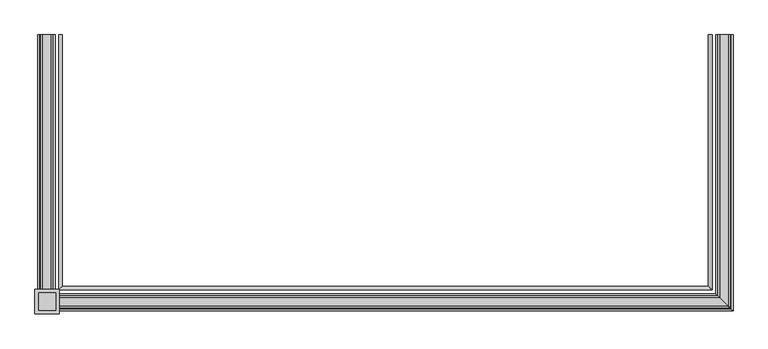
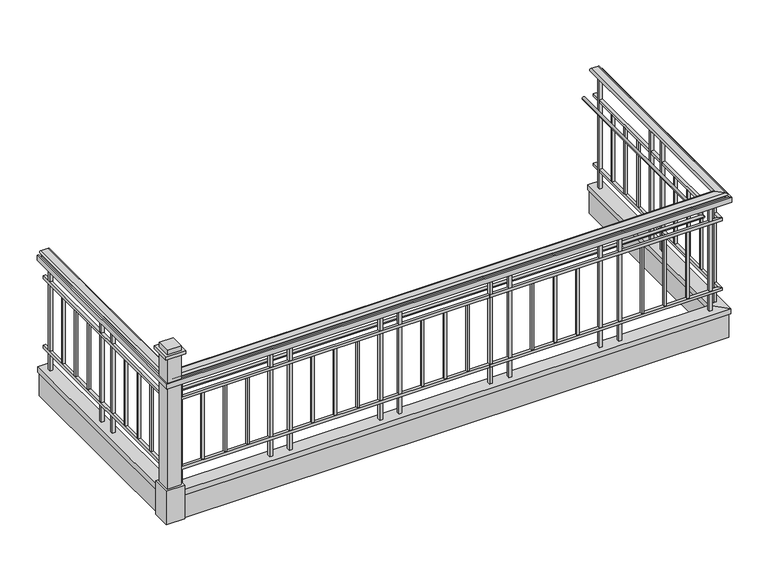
"""IFC4 building model written with IfcOpenShell, lengths in millimetres: railing geometry, Deco Type."""

from ifc_helpers import new_model, si_unit, frame, origin, place, context, project, spatial, polyline, circle_curve, ellipse_curve, outline, extrude, faceted_brep, source, transform, mapped, element, save
from ifc_brep_helpers import plane_surface, cylinder_surface, advanced_brep


def railing_6c571f58(model_context):
    return source(origin(), model_context, "Body", "SolidModel", [
        advanced_brep(
        [(10061.4002076, -7864.1661799, 4146.55), (10124.7499602, -7864.1661799, 4146.55), (10124.7499602, -7864.1661799, 4124.261629), (10124.7499602, -7864.1661799, 4114.8), (10061.4002076, -7864.1661799, 4114.8), (10061.4002076, -7864.1661799, 4124.3248415), (10061.4002076, -9707.4039273, 4124.3248415), (10061.4002076, -9707.4039273, 4146.55), (10061.4002076, -9707.4039273, 4114.8), (10124.7499602, -9770.7536799, 4114.8), (10124.7499602, -9770.7536799, 4124.261629), (10124.7499602, -9770.7536799, 4146.55), (5376.3872128, -9707.4039273, 4124.3248415), (5376.3872128, -9707.4039273, 4146.55), (5376.3872128, -9707.4039273, 4114.8), (5313.0374602, -9770.7536799, 4114.8), (5313.0374602, -9770.7536799, 4124.261629), (5313.0374602, -9770.7536799, 4146.55), (5376.3872128, -7864.1661799, 4146.55), (5376.3872128, -7864.1661799, 4124.3248415), (5376.3872128, -7864.1661799, 4114.8), (5313.0374602, -7864.1661799, 4114.8), (5313.0374602, -7864.1661799, 4124.261629), (5313.0374602, -7864.1661799, 4146.55)],
        [
            (0, 1),
            (1, 2, circle_curve(frame((10124.7499602, -7864.1661799, 4135.4058145), z_axis=(0.0, 1.0, 0.0), x_axis=(1.0, 0.0, 0.0)), 11.1441855)),
            (2, 3),
            (3, 4),
            (4, 5),
            (5, 0, circle_curve(frame((10061.4002076, -7864.1661799, 4135.4374207), z_axis=(0.0, 1.0, 0.0), x_axis=(1.0, 0.0, 0.0)), 11.1125793)),
            (5, 6),
            (6, 7, ellipse_curve(frame((10061.4002076, -9707.4039273, 4135.4374207), z_axis=(0.7071067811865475, 0.7071067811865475, 0.0), x_axis=(-0.7071067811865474, 0.7071067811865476, 0.0)), 15.7155603, 11.1125793)),
            (7, 0),
            (4, 8),
            (8, 6),
            (3, 9),
            (9, 8),
            (2, 10),
            (10, 9),
            (1, 11),
            (11, 10, ellipse_curve(frame((10124.7499602, -9770.7536799, 4135.4058145), z_axis=(0.7071067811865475, 0.7071067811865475, 0.0), x_axis=(-0.7071067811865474, 0.7071067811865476, 0.0)), 15.7602583, 11.1441855)),
            (7, 11),
            (6, 12),
            (12, 13, ellipse_curve(frame((5376.3872128, -9707.4039273, 4135.4374207), z_axis=(0.7071067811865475, -0.7071067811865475, 0.0), x_axis=(0.7071067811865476, 0.7071067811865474, 0.0)), 15.7155603, 11.1125793)),
            (13, 7),
            (8, 14),
            (14, 12),
            (9, 15),
            (15, 14),
            (10, 16),
            (16, 15),
            (11, 17),
            (17, 16, ellipse_curve(frame((5313.0374602, -9770.7536799, 4135.4058145), z_axis=(0.7071067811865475, -0.7071067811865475, 0.0), x_axis=(0.7071067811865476, 0.7071067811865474, 0.0)), 15.7602583, 11.1441855)),
            (13, 17),
            (18, 19, circle_curve(frame((5376.3872128, -7864.1661799, 4135.4374207), z_axis=(0.0, 1.0, 0.0), x_axis=(-1.0, 0.0, 0.0)), 11.1125793)),
            (19, 20),
            (20, 21),
            (21, 22),
            (22, 23, circle_curve(frame((5313.0374602, -7864.1661799, 4135.4058145), z_axis=(0.0, 1.0, 0.0), x_axis=(-1.0, 0.0, 0.0)), 11.1441855)),
            (23, 18),
            (12, 19),
            (18, 13),
            (14, 20),
            (15, 21),
            (16, 22),
            (17, 23),
        ],
        [
            plane_surface(frame((10092.9999602, -7864.1661799, 4114.8), z_axis=(0.0, 1.0, 0.0), x_axis=(0.0, 0.0, -1.0))),
            cylinder_surface(frame((10061.4002076, -7864.1661799, 4135.4374207), z_axis=(0.0, 1.0, 0.0), x_axis=(1.0, 0.0, 0.0)), 11.1125793),
            plane_surface(frame((10061.4002076, -7864.1661799, 4114.8), z_axis=(-1.0, 0.0, 0.0), x_axis=(0.0, -1.0, 0.0))),
            plane_surface(frame((10124.7499602, -7864.1661799, 4114.8), z_axis=(0.0, 0.0, -1.0), x_axis=(0.0, -1.0, 0.0))),
            plane_surface(frame((10124.7499602, -7864.1661799, 4124.261629), z_axis=(1.0, 0.0, 0.0), x_axis=(0.0, -1.0, 0.0))),
            cylinder_surface(frame((10124.7499602, -7864.1661799, 4135.4058145), z_axis=(0.0, 1.0, 0.0), x_axis=(1.0, 0.0, 0.0)), 11.1441855),
            plane_surface(frame((10061.4002076, -7864.1661799, 4146.55), z_axis=(0.0, 0.0, 1.0), x_axis=(0.0, -1.0, 0.0))),
            cylinder_surface(frame((10092.9999602, -9707.4039273, 4135.4374207), z_axis=(1.0, 0.0, 0.0), x_axis=(0.0, -1.0, 0.0)), 11.1125793),
            plane_surface(frame((10061.4002076, -9707.4039273, 4114.8), z_axis=(0.0, 1.0, 0.0), x_axis=(-1.0, 0.0, 0.0))),
            plane_surface(frame((10124.7499602, -9770.7536799, 4114.8), z_axis=(0.0, 0.0, -1.0), x_axis=(-1.0, 0.0, 0.0))),
            plane_surface(frame((10124.7499602, -9770.7536799, 4124.261629), z_axis=(0.0, -1.0, 0.0), x_axis=(-1.0, 0.0, 0.0))),
            cylinder_surface(frame((10092.9999602, -9770.7536799, 4135.4058145), z_axis=(1.0, 0.0, 0.0), x_axis=(0.0, -1.0, 0.0)), 11.1441855),
            plane_surface(frame((10061.4002076, -9707.4039273, 4146.55), z_axis=(0.0, 0.0, 1.0), x_axis=(-1.0, 0.0, 0.0))),
            plane_surface(frame((5344.7874602, -7864.1661799, 4114.8), z_axis=(0.0, 1.0, 0.0), x_axis=(0.0, 0.0, 1.0))),
            cylinder_surface(frame((5376.3872128, -9739.0036799, 4135.4374207), z_axis=(0.0, -1.0, 0.0), x_axis=(-1.0, 0.0, 0.0)), 11.1125793),
            plane_surface(frame((5376.3872128, -9707.4039273, 4114.8), z_axis=(1.0, 0.0, 0.0), x_axis=(0.0, 1.0, 0.0))),
            plane_surface(frame((5313.0374602, -9770.7536799, 4114.8), z_axis=(0.0, 0.0, -1.0), x_axis=(0.0, 1.0, 0.0))),
            plane_surface(frame((5313.0374602, -9770.7536799, 4124.261629), z_axis=(-1.0, 0.0, 0.0), x_axis=(0.0, 1.0, 0.0))),
            cylinder_surface(frame((5313.0374602, -9739.0036799, 4135.4058145), z_axis=(0.0, -1.0, 0.0), x_axis=(-1.0, 0.0, 0.0)), 11.1441855),
            plane_surface(frame((5376.3872128, -9707.4039273, 4146.55), z_axis=(0.0, 0.0, 1.0), x_axis=(0.0, 1.0, 0.0))),
        ],
        [
            (0, [[1, 2, 3, 4, 5, 6]]),
            (1, [[-6, 7, 8, 9]]),
            (2, [[-5, 10, 11, -7]]),
            (3, [[-4, 12, 13, -10]]),
            (4, [[-3, 14, 15, -12]]),
            (5, [[-2, 16, 17, -14]]),
            (6, [[-1, -9, 18, -16]]),
            (7, [[-8, 19, 20, 21]]),
            (8, [[-11, 22, 23, -19]]),
            (9, [[-13, 24, 25, -22]]),
            (10, [[-15, 26, 27, -24]]),
            (11, [[-17, 28, 29, -26]]),
            (12, [[-18, -21, 30, -28]]),
            (13, [[31, 32, 33, 34, 35, 36]]),
            (14, [[-20, 37, -31, 38]]),
            (15, [[-23, 39, -32, -37]]),
            (16, [[-25, 40, -33, -39]]),
            (17, [[-27, 41, -34, -40]]),
            (18, [[-29, 42, -35, -41]]),
            (19, [[-30, -38, -36, -42]]),
        ],
    ),
        faceted_brep([(10118.4750839, -7864.1661799, 4114.8), (10118.4750839, -7864.1661799, 4070.35), (10105.7750839, -7864.1661799, 4070.35), (10105.7750839, -7864.1661799, 4114.8), (10105.7750839, -9751.7788036, 4114.8), (10118.4750839, -9764.4788036, 4114.8), (10105.7750839, -9751.7788036, 4070.35), (10118.4750839, -9764.4788036, 4070.35), (5332.0123365, -9751.7788036, 4114.8), (5319.3123365, -9764.4788036, 4114.8), (5332.0123365, -9751.7788036, 4070.35), (5319.3123365, -9764.4788036, 4070.35), (5319.3123365, -7864.1661799, 4114.8), (5332.0123365, -7864.1661799, 4114.8), (5332.0123365, -7864.1661799, 4070.35), (5319.3123365, -7864.1661799, 4070.35)], [[[0, 1, 2, 3]], [[0, 3, 4, 5]], [[3, 2, 6, 4]], [[2, 1, 7, 6]], [[1, 0, 5, 7]], [[5, 4, 8, 9]], [[4, 6, 10, 8]], [[6, 7, 11, 10]], [[7, 5, 9, 11]], [[12, 13, 14, 15]], [[9, 8, 13, 12]], [[8, 10, 14, 13]], [[10, 11, 15, 14]], [[11, 9, 12, 15]]]),
        faceted_brep([(10156.5750839, -7864.1661799, 4114.8), (10156.5750839, -7864.1661799, 4070.35), (10143.8750839, -7864.1661799, 4070.35), (10143.8750839, -7864.1661799, 4114.8), (10143.8750839, -9789.8788036, 4114.8), (10156.5750839, -9802.5788036, 4114.8), (10143.8750839, -9789.8788036, 4070.35), (10156.5750839, -9802.5788036, 4070.35), (5293.9123365, -9789.8788036, 4114.8), (5281.2123365, -9802.5788036, 4114.8), (5293.9123365, -9789.8788036, 4070.35), (5281.2123365, -9802.5788036, 4070.35), (5281.2123365, -7864.1661799, 4114.8), (5293.9123365, -7864.1661799, 4114.8), (5293.9123365, -7864.1661799, 4070.35), (5281.2123365, -7864.1661799, 4070.35)], [[[0, 1, 2, 3]], [[0, 3, 4, 5]], [[3, 2, 6, 4]], [[2, 1, 7, 6]], [[1, 0, 5, 7]], [[5, 4, 8, 9]], [[4, 6, 10, 8]], [[6, 7, 11, 10]], [[7, 5, 9, 11]], [[12, 13, 14, 15]], [[9, 8, 13, 12]], [[8, 10, 14, 13]], [[10, 11, 15, 14]], [[11, 9, 12, 15]]]),
        faceted_brep([(10105.6999602, -7864.1661799, 3911.6), (10105.6999602, -7864.1661799, 3886.2), (10080.2999602, -7864.1661799, 3886.2), (10080.2999602, -7864.1661799, 3911.6), (10080.2999602, -9726.3036799, 3911.6), (10105.6999602, -9751.7036799, 3911.6), (10080.2999602, -9726.3036799, 3886.2), (10105.6999602, -9751.7036799, 3886.2), (5357.4874602, -9726.3036799, 3911.6), (5332.0874602, -9751.7036799, 3911.6), (5357.4874602, -9726.3036799, 3886.2), (5332.0874602, -9751.7036799, 3886.2), (5332.0874602, -7864.1661799, 3911.6), (5357.4874602, -7864.1661799, 3911.6), (5357.4874602, -7864.1661799, 3886.2), (5332.0874602, -7864.1661799, 3886.2)], [[[0, 1, 2, 3]], [[0, 3, 4, 5]], [[3, 2, 6, 4]], [[2, 1, 7, 6]], [[1, 0, 5, 7]], [[5, 4, 8, 9]], [[4, 6, 10, 8]], [[6, 7, 11, 10]], [[7, 5, 9, 11]], [[12, 13, 14, 15]], [[9, 8, 13, 12]], [[8, 10, 14, 13]], [[10, 11, 15, 14]], [[11, 9, 12, 15]]]),
        advanced_brep(
        [(9983.4624602, -7864.1661799, 3898.9), (10008.8624602, -7864.1661799, 3898.9), (10008.8624602, -9654.8661799, 3898.9), (9983.4624602, -9629.4661799, 3898.9), (5428.9249602, -9654.8661799, 3898.9), (5454.3249602, -9629.4661799, 3898.9), (5454.3249602, -7864.1661799, 3898.9), (5428.9249602, -7864.1661799, 3898.9)],
        [
            (0, 1, circle_curve(frame((9996.1624602, -7864.1661799, 3898.9), z_axis=(0.0, 1.0, 0.0), x_axis=(1.0, 0.0, 0.0)), 12.7)),
            (1, 0, circle_curve(frame((9996.1624602, -7864.1661799, 3898.9), z_axis=(0.0, 1.0, 0.0), x_axis=(1.0, 0.0, 0.0)), 12.7)),
            (1, 2),
            (2, 3, ellipse_curve(frame((9996.1624602, -9642.1661799, 3898.9), z_axis=(0.7071067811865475, 0.7071067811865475, 0.0), x_axis=(-0.7071067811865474, 0.7071067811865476, 0.0)), 17.9605122, 12.7)),
            (3, 0),
            (3, 2, ellipse_curve(frame((9996.1624602, -9642.1661799, 3898.9), z_axis=(0.7071067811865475, 0.7071067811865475, 0.0), x_axis=(-0.7071067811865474, 0.7071067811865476, 0.0)), 17.9605122, 12.7)),
            (2, 4),
            (4, 5, ellipse_curve(frame((5441.6249602, -9642.1661799, 3898.9), z_axis=(0.7071067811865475, -0.7071067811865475, 0.0), x_axis=(0.7071067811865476, 0.7071067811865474, 0.0)), 17.9605122, 12.7)),
            (5, 3),
            (5, 4, ellipse_curve(frame((5441.6249602, -9642.1661799, 3898.9), z_axis=(0.7071067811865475, -0.7071067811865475, 0.0), x_axis=(0.7071067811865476, 0.7071067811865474, 0.0)), 17.9605122, 12.7)),
            (6, 7, circle_curve(frame((5441.6249602, -7864.1661799, 3898.9), z_axis=(0.0, 1.0, 0.0), x_axis=(-1.0, 0.0, 0.0)), 12.7)),
            (7, 6, circle_curve(frame((5441.6249602, -7864.1661799, 3898.9), z_axis=(0.0, 1.0, 0.0), x_axis=(-1.0, 0.0, 0.0)), 12.7)),
            (4, 7),
            (6, 5),
        ],
        [
            plane_surface(frame((9996.1624602, -7864.1661799, 3898.9), z_axis=(0.0, 1.0, 0.0), x_axis=(0.0, 0.0, -1.0))),
            cylinder_surface(frame((9996.1624602, -7864.1661799, 3898.9), z_axis=(0.0, 1.0, 0.0), x_axis=(1.0, 0.0, 0.0)), 12.7),
            cylinder_surface(frame((9996.1624602, -9642.1661799, 3898.9), z_axis=(1.0, 0.0, 0.0), x_axis=(0.0, -1.0, 0.0)), 12.7),
            plane_surface(frame((5441.6249602, -7864.1661799, 3898.9), z_axis=(0.0, 1.0, 0.0), x_axis=(0.0, 0.0, 1.0))),
            cylinder_surface(frame((5441.6249602, -9642.1661799, 3898.9), z_axis=(0.0, -1.0, 0.0), x_axis=(-1.0, 0.0, 0.0)), 12.7),
        ],
        [
            (0, [[1, 2]]),
            (1, [[-2, 3, 4, 5]]),
            (1, [[-1, -5, 6, -3]]),
            (2, [[-4, 7, 8, 9]]),
            (2, [[-6, -9, 10, -7]]),
            (3, [[11, 12]]),
            (4, [[-8, 13, -11, 14]]),
            (4, [[-10, -14, -12, -13]]),
        ],
    ),
        faceted_brep([(10105.6999602, -7864.1661799, 3276.6), (10105.6999602, -7864.1661799, 3251.2), (10080.2999602, -7864.1661799, 3251.2), (10080.2999602, -7864.1661799, 3276.6), (10080.2999602, -9726.3036799, 3276.6), (10105.6999602, -9751.7036799, 3276.6), (10080.2999602, -9726.3036799, 3251.2), (10105.6999602, -9751.7036799, 3251.2), (5357.4874602, -9726.3036799, 3276.6), (5332.0874602, -9751.7036799, 3276.6), (5357.4874602, -9726.3036799, 3251.2), (5332.0874602, -9751.7036799, 3251.2), (5332.0874602, -7864.1661799, 3276.6), (5357.4874602, -7864.1661799, 3276.6), (5357.4874602, -7864.1661799, 3251.2), (5332.0874602, -7864.1661799, 3251.2)], [[[0, 1, 2, 3]], [[0, 3, 4, 5]], [[3, 2, 6, 4]], [[2, 1, 7, 6]], [[1, 0, 5, 7]], [[5, 4, 8, 9]], [[4, 6, 10, 8]], [[6, 7, 11, 10]], [[7, 5, 9, 11]], [[12, 13, 14, 15]], [[9, 8, 13, 12]], [[8, 10, 14, 13]], [[10, 11, 15, 14]], [[11, 9, 12, 15]]]),
        faceted_brep([(10034.3375839, -7864.1661799, 3097.0362864), (10151.8125839, -7864.1661799, 3097.0362864), (10151.8125839, -7864.1661799, 3048.0), (10139.1125839, -7864.1661799, 3048.0), (10139.1125839, -7864.1661799, 3084.3362864), (10047.0375839, -7864.1661799, 3084.3362864), (10047.0375839, -7864.1661799, 3048.0), (10034.3375839, -7864.1661799, 3048.0), (10034.3375839, -9680.3413036, 3048.0), (10034.3375839, -9680.3413036, 3097.0362864), (10047.0375839, -9693.0413036, 3048.0), (10047.0375839, -9693.0413036, 3084.3362864), (10139.1125839, -9785.1163036, 3084.3362864), (10139.1125839, -9785.1163036, 3048.0), (10151.8125839, -9797.8163036, 3048.0), (10151.8125839, -9797.8163036, 3097.0362864), (5403.4498365, -9680.3413036, 3048.0), (5403.4498365, -9680.3413036, 3097.0362864), (5390.7498365, -9693.0413036, 3048.0), (5390.7498365, -9693.0413036, 3084.3362864), (5298.6748365, -9785.1163036, 3084.3362864), (5298.6748365, -9785.1163036, 3048.0), (5285.9748365, -9797.8163036, 3048.0), (5285.9748365, -9797.8163036, 3097.0362864), (5403.4498365, -7864.1661799, 3097.0362864), (5403.4498365, -7864.1661799, 3048.0), (5390.7498365, -7864.1661799, 3048.0), (5390.7498365, -7864.1661799, 3084.3362864), (5298.6748365, -7864.1661799, 3084.3362864), (5298.6748365, -7864.1661799, 3048.0), (5285.9748365, -7864.1661799, 3048.0), (5285.9748365, -7864.1661799, 3097.0362864)], [[[0, 1, 2, 3, 4, 5, 6, 7]], [[0, 7, 8, 9]], [[7, 6, 10, 8]], [[6, 5, 11, 10]], [[5, 4, 12, 11]], [[4, 3, 13, 12]], [[3, 2, 14, 13]], [[2, 1, 15, 14]], [[1, 0, 9, 15]], [[9, 8, 16, 17]], [[8, 10, 18, 16]], [[10, 11, 19, 18]], [[11, 12, 20, 19]], [[12, 13, 21, 20]], [[13, 14, 22, 21]], [[14, 15, 23, 22]], [[15, 9, 17, 23]], [[24, 25, 26, 27, 28, 29, 30, 31]], [[17, 16, 25, 24]], [[16, 18, 26, 25]], [[18, 19, 27, 26]], [[19, 20, 28, 27]], [[20, 21, 29, 28]], [[21, 22, 30, 29]], [[22, 23, 31, 30]], [[23, 17, 24, 31]]]),
        faceted_brep([(10047.0375839, -7864.1661799, 3084.3362864), (10139.1125839, -7864.1661799, 3084.3362864), (10139.1125839, -7864.1661799, 2830.3362864), (10047.0375839, -7864.1661799, 2830.3362864), (10047.0375839, -9693.0413036, 2830.3362864), (10047.0375839, -9693.0413036, 3084.3362864), (10139.1125839, -9785.1163036, 2830.3362864), (10139.1125839, -9785.1163036, 3084.3362864), (5390.7498365, -9693.0413036, 2830.3362864), (5390.7498365, -9693.0413036, 3084.3362864), (5298.6748365, -9785.1163036, 2830.3362864), (5298.6748365, -9785.1163036, 3084.3362864), (5390.7498365, -7864.1661799, 3084.3362864), (5390.7498365, -7864.1661799, 2830.3362864), (5298.6748365, -7864.1661799, 2830.3362864), (5298.6748365, -7864.1661799, 3084.3362864)], [[[0, 1, 2, 3]], [[0, 3, 4, 5]], [[3, 2, 6, 4]], [[2, 1, 7, 6]], [[1, 0, 5, 7]], [[5, 4, 8, 9]], [[4, 6, 10, 8]], [[6, 7, 11, 10]], [[7, 5, 9, 11]], [[12, 13, 14, 15]], [[9, 8, 13, 12]], [[8, 10, 14, 13]], [[10, 11, 15, 14]], [[11, 9, 12, 15]]]),
        extrude(outline(polyline([(5334.8655852, -7959.4570347), (5334.8655852, -7934.0570347), (5360.2655852, -7934.0570347), (5360.2655852, -7959.4570347), (5334.8655852, -7959.4570347)])), frame((0.0, 0.0, 3097.0362864), z_axis=(0.0, 0.0, 1.0), x_axis=(1.0, 0.0, 0.0)), (0.0, 0.0, 1.0), 1017.7637136),
        extrude(outline(polyline([(5338.0405852, -8148.9940292), (5338.0405852, -8129.9440292), (5357.0905852, -8129.9440292), (5357.0905852, -8148.9940292), (5338.0405852, -8148.9940292)])), frame((0.0, 0.0, 3276.6), z_axis=(0.0, 0.0, 1.0), x_axis=(1.0, 0.0, 0.0)), (0.0, 0.0, 1.0), 609.6),
        extrude(outline(polyline([(5338.0405852, -8341.7060237), (5338.0405852, -8322.6560237), (5357.0905852, -8322.6560237), (5357.0905852, -8341.7060237), (5338.0405852, -8341.7060237)])), frame((0.0, 0.0, 3276.6), z_axis=(0.0, 0.0, 1.0), x_axis=(1.0, 0.0, 0.0)), (0.0, 0.0, 1.0), 609.6),
        extrude(outline(polyline([(5338.0405852, -8534.4180182), (5338.0405852, -8515.3680182), (5357.0905852, -8515.3680182), (5357.0905852, -8534.4180182), (5338.0405852, -8534.4180182)])), frame((0.0, 0.0, 3276.6), z_axis=(0.0, 0.0, 1.0), x_axis=(1.0, 0.0, 0.0)), (0.0, 0.0, 1.0), 609.6),
        extrude(outline(polyline([(5334.8655852, -8730.3050126), (5334.8655852, -8704.9050126), (5360.2655852, -8704.9050126), (5360.2655852, -8730.3050126), (5334.8655852, -8730.3050126)])), frame((0.0, 0.0, 3097.0362864), z_axis=(0.0, 0.0, 1.0), x_axis=(1.0, 0.0, 0.0)), (0.0, 0.0, 1.0), 1017.7637136),
        extrude(outline(polyline([(5334.8655852, -8895.4867222), (5334.8655852, -8870.0867222), (5360.2655852, -8870.0867222), (5360.2655852, -8895.4867222), (5334.8655852, -8895.4867222)])), frame((0.0, 0.0, 3097.0362864), z_axis=(0.0, 0.0, 1.0), x_axis=(1.0, 0.0, 0.0)), (0.0, 0.0, 1.0), 1017.7637136),
        extrude(outline(polyline([(5338.0405852, -9085.0237167), (5338.0405852, -9065.9737167), (5357.0905852, -9065.9737167), (5357.0905852, -9085.0237167), (5338.0405852, -9085.0237167)])), frame((0.0, 0.0, 3276.6), z_axis=(0.0, 0.0, 1.0), x_axis=(1.0, 0.0, 0.0)), (0.0, 0.0, 1.0), 609.6),
        extrude(outline(polyline([(5338.0405852, -9277.7357112), (5338.0405852, -9258.6857112), (5357.0905852, -9258.6857112), (5357.0905852, -9277.7357112), (5338.0405852, -9277.7357112)])), frame((0.0, 0.0, 3276.6), z_axis=(0.0, 0.0, 1.0), x_axis=(1.0, 0.0, 0.0)), (0.0, 0.0, 1.0), 609.6),
        extrude(outline(polyline([(5338.0405852, -9470.4477057), (5338.0405852, -9451.3977057), (5357.0905852, -9451.3977057), (5357.0905852, -9470.4477057), (5338.0405852, -9470.4477057)])), frame((0.0, 0.0, 3276.6), z_axis=(0.0, 0.0, 1.0), x_axis=(1.0, 0.0, 0.0)), (0.0, 0.0, 1.0), 609.6),
        extrude(outline(polyline([(5334.8655852, -9666.3347001), (5334.8655852, -9640.9347001), (5360.2655852, -9640.9347001), (5360.2655852, -9666.3347001), (5334.8655852, -9666.3347001)])), frame((0.0, 0.0, 3097.0362864), z_axis=(0.0, 0.0, 1.0), x_axis=(1.0, 0.0, 0.0)), (0.0, 0.0, 1.0), 1017.7637136),
        extrude(outline(polyline([(5443.959519, -9748.9255549), (5418.559519, -9748.9255549), (5418.559519, -9723.5255549), (5443.959519, -9723.5255549), (5443.959519, -9748.9255549)])), frame((0.0, 0.0, 3097.0362864), z_axis=(0.0, 0.0, 1.0), x_axis=(1.0, 0.0, 0.0)), (0.0, 0.0, 1.0), 1017.7637136),
        extrude(outline(polyline([(5636.0703646, -9745.7505549), (5617.0203646, -9745.7505549), (5617.0203646, -9726.7005549), (5636.0703646, -9726.7005549), (5636.0703646, -9745.7505549)])), frame((0.0, 0.0, 3276.6), z_axis=(0.0, 0.0, 1.0), x_axis=(1.0, 0.0, 0.0)), (0.0, 0.0, 1.0), 609.6),
        extrude(outline(polyline([(5831.3562102, -9745.7505549), (5812.3062102, -9745.7505549), (5812.3062102, -9726.7005549), (5831.3562102, -9726.7005549), (5831.3562102, -9745.7505549)])), frame((0.0, 0.0, 3276.6), z_axis=(0.0, 0.0, 1.0), x_axis=(1.0, 0.0, 0.0)), (0.0, 0.0, 1.0), 609.6),
        extrude(outline(polyline([(6026.6420558, -9745.7505549), (6007.5920558, -9745.7505549), (6007.5920558, -9726.7005549), (6026.6420558, -9726.7005549), (6026.6420558, -9745.7505549)])), frame((0.0, 0.0, 3276.6), z_axis=(0.0, 0.0, 1.0), x_axis=(1.0, 0.0, 0.0)), (0.0, 0.0, 1.0), 609.6),
        extrude(outline(polyline([(6225.1029014, -9748.9255549), (6199.7029014, -9748.9255549), (6199.7029014, -9723.5255549), (6225.1029014, -9723.5255549), (6225.1029014, -9748.9255549)])), frame((0.0, 0.0, 3097.0362864), z_axis=(0.0, 0.0, 1.0), x_axis=(1.0, 0.0, 0.0)), (0.0, 0.0, 1.0), 1017.7637136),
        extrude(outline(polyline([(6392.490769, -9748.9255549), (6367.090769, -9748.9255549), (6367.090769, -9723.5255549), (6392.490769, -9723.5255549), (6392.490769, -9748.9255549)])), frame((0.0, 0.0, 3097.0362864), z_axis=(0.0, 0.0, 1.0), x_axis=(1.0, 0.0, 0.0)), (0.0, 0.0, 1.0), 1017.7637136),
        extrude(outline(polyline([(6584.6016146, -9745.7505549), (6565.5516146, -9745.7505549), (6565.5516146, -9726.7005549), (6584.6016146, -9726.7005549), (6584.6016146, -9745.7505549)])), frame((0.0, 0.0, 3276.6), z_axis=(0.0, 0.0, 1.0), x_axis=(1.0, 0.0, 0.0)), (0.0, 0.0, 1.0), 609.6),
        extrude(outline(polyline([(6779.8874602, -9745.7505549), (6760.8374602, -9745.7505549), (6760.8374602, -9726.7005549), (6779.8874602, -9726.7005549), (6779.8874602, -9745.7505549)])), frame((0.0, 0.0, 3276.6), z_axis=(0.0, 0.0, 1.0), x_axis=(1.0, 0.0, 0.0)), (0.0, 0.0, 1.0), 609.6),
        extrude(outline(polyline([(6975.1733058, -9745.7505549), (6956.1233058, -9745.7505549), (6956.1233058, -9726.7005549), (6975.1733058, -9726.7005549), (6975.1733058, -9745.7505549)])), frame((0.0, 0.0, 3276.6), z_axis=(0.0, 0.0, 1.0), x_axis=(1.0, 0.0, 0.0)), (0.0, 0.0, 1.0), 609.6),
        extrude(outline(polyline([(7173.6341514, -9748.9255549), (7148.2341514, -9748.9255549), (7148.2341514, -9723.5255549), (7173.6341514, -9723.5255549), (7173.6341514, -9748.9255549)])), frame((0.0, 0.0, 3097.0362864), z_axis=(0.0, 0.0, 1.0), x_axis=(1.0, 0.0, 0.0)), (0.0, 0.0, 1.0), 1017.7637136),
        extrude(outline(polyline([(7341.022019, -9748.9255549), (7315.622019, -9748.9255549), (7315.622019, -9723.5255549), (7341.022019, -9723.5255549), (7341.022019, -9748.9255549)])), frame((0.0, 0.0, 3097.0362864), z_axis=(0.0, 0.0, 1.0), x_axis=(1.0, 0.0, 0.0)), (0.0, 0.0, 1.0), 1017.7637136),
        extrude(outline(polyline([(7533.1328646, -9745.7505549), (7514.0828646, -9745.7505549), (7514.0828646, -9726.7005549), (7533.1328646, -9726.7005549), (7533.1328646, -9745.7505549)])), frame((0.0, 0.0, 3276.6), z_axis=(0.0, 0.0, 1.0), x_axis=(1.0, 0.0, 0.0)), (0.0, 0.0, 1.0), 609.6),
        extrude(outline(polyline([(7728.4187102, -9745.7505549), (7709.3687102, -9745.7505549), (7709.3687102, -9726.7005549), (7728.4187102, -9726.7005549), (7728.4187102, -9745.7505549)])), frame((0.0, 0.0, 3276.6), z_axis=(0.0, 0.0, 1.0), x_axis=(1.0, 0.0, 0.0)), (0.0, 0.0, 1.0), 609.6),
        extrude(outline(polyline([(7923.7045558, -9745.7505549), (7904.6545558, -9745.7505549), (7904.6545558, -9726.7005549), (7923.7045558, -9726.7005549), (7923.7045558, -9745.7505549)])), frame((0.0, 0.0, 3276.6), z_axis=(0.0, 0.0, 1.0), x_axis=(1.0, 0.0, 0.0)), (0.0, 0.0, 1.0), 609.6),
        extrude(outline(polyline([(8122.1654014, -9748.9255549), (8096.7654014, -9748.9255549), (8096.7654014, -9723.5255549), (8122.1654014, -9723.5255549), (8122.1654014, -9748.9255549)])), frame((0.0, 0.0, 3097.0362864), z_axis=(0.0, 0.0, 1.0), x_axis=(1.0, 0.0, 0.0)), (0.0, 0.0, 1.0), 1017.7637136),
        extrude(outline(polyline([(8289.553269, -9748.9255549), (8264.153269, -9748.9255549), (8264.153269, -9723.5255549), (8289.553269, -9723.5255549), (8289.553269, -9748.9255549)])), frame((0.0, 0.0, 3097.0362864), z_axis=(0.0, 0.0, 1.0), x_axis=(1.0, 0.0, 0.0)), (0.0, 0.0, 1.0), 1017.7637136),
        extrude(outline(polyline([(8481.6641146, -9745.7505549), (8462.6141146, -9745.7505549), (8462.6141146, -9726.7005549), (8481.6641146, -9726.7005549), (8481.6641146, -9745.7505549)])), frame((0.0, 0.0, 3276.6), z_axis=(0.0, 0.0, 1.0), x_axis=(1.0, 0.0, 0.0)), (0.0, 0.0, 1.0), 609.6),
        extrude(outline(polyline([(8676.9499602, -9745.7505549), (8657.8999602, -9745.7505549), (8657.8999602, -9726.7005549), (8676.9499602, -9726.7005549), (8676.9499602, -9745.7505549)])), frame((0.0, 0.0, 3276.6), z_axis=(0.0, 0.0, 1.0), x_axis=(1.0, 0.0, 0.0)), (0.0, 0.0, 1.0), 609.6),
        extrude(outline(polyline([(8872.2358058, -9745.7505549), (8853.1858058, -9745.7505549), (8853.1858058, -9726.7005549), (8872.2358058, -9726.7005549), (8872.2358058, -9745.7505549)])), frame((0.0, 0.0, 3276.6), z_axis=(0.0, 0.0, 1.0), x_axis=(1.0, 0.0, 0.0)), (0.0, 0.0, 1.0), 609.6),
        extrude(outline(polyline([(9070.6966514, -9748.9255549), (9045.2966514, -9748.9255549), (9045.2966514, -9723.5255549), (9070.6966514, -9723.5255549), (9070.6966514, -9748.9255549)])), frame((0.0, 0.0, 3097.0362864), z_axis=(0.0, 0.0, 1.0), x_axis=(1.0, 0.0, 0.0)), (0.0, 0.0, 1.0), 1017.7637136),
        extrude(outline(polyline([(9238.084519, -9748.9255549), (9212.684519, -9748.9255549), (9212.684519, -9723.5255549), (9238.084519, -9723.5255549), (9238.084519, -9748.9255549)])), frame((0.0, 0.0, 3097.0362864), z_axis=(0.0, 0.0, 1.0), x_axis=(1.0, 0.0, 0.0)), (0.0, 0.0, 1.0), 1017.7637136),
        extrude(outline(polyline([(9430.1953646, -9745.7505549), (9411.1453646, -9745.7505549), (9411.1453646, -9726.7005549), (9430.1953646, -9726.7005549), (9430.1953646, -9745.7505549)])), frame((0.0, 0.0, 3276.6), z_axis=(0.0, 0.0, 1.0), x_axis=(1.0, 0.0, 0.0)), (0.0, 0.0, 1.0), 609.6),
        extrude(outline(polyline([(9625.4812102, -9745.7505549), (9606.4312102, -9745.7505549), (9606.4312102, -9726.7005549), (9625.4812102, -9726.7005549), (9625.4812102, -9745.7505549)])), frame((0.0, 0.0, 3276.6), z_axis=(0.0, 0.0, 1.0), x_axis=(1.0, 0.0, 0.0)), (0.0, 0.0, 1.0), 609.6),
        extrude(outline(polyline([(9820.7670558, -9745.7505549), (9801.7170558, -9745.7505549), (9801.7170558, -9726.7005549), (9820.7670558, -9726.7005549), (9820.7670558, -9745.7505549)])), frame((0.0, 0.0, 3276.6), z_axis=(0.0, 0.0, 1.0), x_axis=(1.0, 0.0, 0.0)), (0.0, 0.0, 1.0), 609.6),
        extrude(outline(polyline([(10019.2279014, -9748.9255549), (9993.8279014, -9748.9255549), (9993.8279014, -9723.5255549), (10019.2279014, -9723.5255549), (10019.2279014, -9748.9255549)])), frame((0.0, 0.0, 3097.0362864), z_axis=(0.0, 0.0, 1.0), x_axis=(1.0, 0.0, 0.0)), (0.0, 0.0, 1.0), 1017.7637136),
        extrude(outline(polyline([(10102.9218352, -9640.9347001), (10102.9218352, -9666.3347001), (10077.5218352, -9666.3347001), (10077.5218352, -9640.9347001), (10102.9218352, -9640.9347001)])), frame((0.0, 0.0, 3097.0362864), z_axis=(0.0, 0.0, 1.0), x_axis=(1.0, 0.0, 0.0)), (0.0, 0.0, 1.0), 1017.7637136),
        extrude(outline(polyline([(10099.7468352, -9451.3977057), (10099.7468352, -9470.4477057), (10080.6968352, -9470.4477057), (10080.6968352, -9451.3977057), (10099.7468352, -9451.3977057)])), frame((0.0, 0.0, 3276.6), z_axis=(0.0, 0.0, 1.0), x_axis=(1.0, 0.0, 0.0)), (0.0, 0.0, 1.0), 609.6),
        extrude(outline(polyline([(10099.7468352, -9258.6857112), (10099.7468352, -9277.7357112), (10080.6968352, -9277.7357112), (10080.6968352, -9258.6857112), (10099.7468352, -9258.6857112)])), frame((0.0, 0.0, 3276.6), z_axis=(0.0, 0.0, 1.0), x_axis=(1.0, 0.0, 0.0)), (0.0, 0.0, 1.0), 609.6),
        extrude(outline(polyline([(10099.7468352, -9065.9737167), (10099.7468352, -9085.0237167), (10080.6968352, -9085.0237167), (10080.6968352, -9065.9737167), (10099.7468352, -9065.9737167)])), frame((0.0, 0.0, 3276.6), z_axis=(0.0, 0.0, 1.0), x_axis=(1.0, 0.0, 0.0)), (0.0, 0.0, 1.0), 609.6),
        extrude(outline(polyline([(10102.9218352, -8870.0867222), (10102.9218352, -8895.4867222), (10077.5218352, -8895.4867222), (10077.5218352, -8870.0867222), (10102.9218352, -8870.0867222)])), frame((0.0, 0.0, 3097.0362864), z_axis=(0.0, 0.0, 1.0), x_axis=(1.0, 0.0, 0.0)), (0.0, 0.0, 1.0), 1017.7637136),
        extrude(outline(polyline([(10102.9218352, -8704.9050126), (10102.9218352, -8730.3050126), (10077.5218352, -8730.3050126), (10077.5218352, -8704.9050126), (10102.9218352, -8704.9050126)])), frame((0.0, 0.0, 3097.0362864), z_axis=(0.0, 0.0, 1.0), x_axis=(1.0, 0.0, 0.0)), (0.0, 0.0, 1.0), 1017.7637136),
        extrude(outline(polyline([(10099.7468352, -8515.3680182), (10099.7468352, -8534.4180182), (10080.6968352, -8534.4180182), (10080.6968352, -8515.3680182), (10099.7468352, -8515.3680182)])), frame((0.0, 0.0, 3276.6), z_axis=(0.0, 0.0, 1.0), x_axis=(1.0, 0.0, 0.0)), (0.0, 0.0, 1.0), 609.6),
        extrude(outline(polyline([(10099.7468352, -8322.6560237), (10099.7468352, -8341.7060237), (10080.6968352, -8341.7060237), (10080.6968352, -8322.6560237), (10099.7468352, -8322.6560237)])), frame((0.0, 0.0, 3276.6), z_axis=(0.0, 0.0, 1.0), x_axis=(1.0, 0.0, 0.0)), (0.0, 0.0, 1.0), 609.6),
        extrude(outline(polyline([(10099.7468352, -8129.9440292), (10099.7468352, -8148.9940292), (10080.6968352, -8148.9940292), (10080.6968352, -8129.9440292), (10099.7468352, -8129.9440292)])), frame((0.0, 0.0, 3276.6), z_axis=(0.0, 0.0, 1.0), x_axis=(1.0, 0.0, 0.0)), (0.0, 0.0, 1.0), 609.6),
        extrude(outline(polyline([(10102.9218352, -7934.0570347), (10102.9218352, -7959.4570347), (10077.5218352, -7959.4570347), (10077.5218352, -7934.0570347), (10102.9218352, -7934.0570347)])), frame((0.0, 0.0, 3097.0362864), z_axis=(0.0, 0.0, 1.0), x_axis=(1.0, 0.0, 0.0)), (0.0, 0.0, 1.0), 1017.7637136),
        extrude(outline(polyline([(5426.9405852, -9656.8505549), (5426.9405852, -9815.6005549), (5268.1905852, -9815.6005549), (5268.1905852, -9656.8505549), (5426.9405852, -9656.8505549)])), frame((0.0, 0.0, 2844.8), z_axis=(0.0, 0.0, 1.0), x_axis=(1.0, 0.0, 0.0)), (0.0, 0.0, 1.0), 304.8),
        extrude(outline(polyline([(5407.8905852, -9675.9005549), (5407.8905852, -9796.5505549), (5287.2405852, -9796.5505549), (5287.2405852, -9675.9005549), (5407.8905852, -9675.9005549)])), frame((0.0, 0.0, 3149.6), z_axis=(0.0, 0.0, 1.0), x_axis=(1.0, 0.0, 0.0)), (0.0, 0.0, 1.0), 1270.0),
        extrude(outline(polyline([(5433.2905852, -9821.9505549), (5261.8405852, -9821.9505549), (5261.8405852, -9650.5005549), (5433.2905852, -9650.5005549), (5433.2905852, -9821.9505549)]), holes=[polyline([(5287.2405852, -9796.5505549), (5407.8905852, -9796.5505549), (5407.8905852, -9675.9005549), (5287.2405852, -9675.9005549), (5287.2405852, -9796.5505549)])]), frame((0.0, 0.0, 4352.925), z_axis=(0.0, 0.0, 1.0), x_axis=(1.0, 0.0, 0.0)), (0.0, 0.0, 1.0), 25.4),
    ])


if __name__ == "__main__":
    model = new_model("IFC4")
    model_context = context("Model", 3, world=origin())
    ifc_project = project(units=[si_unit("LENGTHUNIT", "METRE", prefix="MILLI")], contexts=[model_context])
    site = spatial("IfcSite", under=ifc_project)
    building = spatial("IfcBuilding", under=site)
    placement = place(None, origin())
    railing_shape = railing_6c571f58(model_context)
    element("IfcRailing", 1, ObjectType="Deco Type", at=placement, inside=building, context=model_context, shape_type="MappedRepresentation", body=[
        mapped(railing_shape, transform((0.0, 0.0, 0.0), x_axis=(1.0, 0.0, 0.0), y_axis=(0.0, 1.0, 0.0), z_axis=(0.0, 0.0, 1.0))),
    ])
    save(model, "model.ifc")
